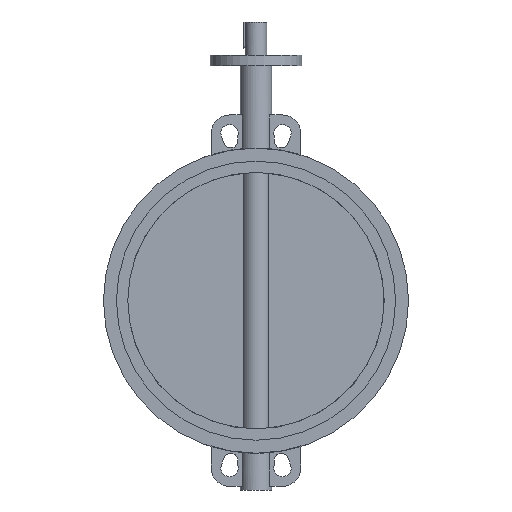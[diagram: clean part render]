
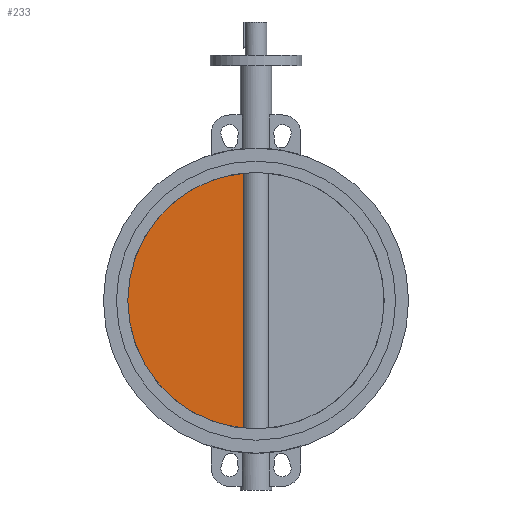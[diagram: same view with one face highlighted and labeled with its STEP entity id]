
A CAD part, left-side view. The second image highlights one B-rep face of the part: STEP entity #233.
In plain terms, the highlighted planar face has unit normal (-1, 0, 0).
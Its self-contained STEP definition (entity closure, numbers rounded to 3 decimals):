
#233=ADVANCED_FACE('',(#6990),#6992,.F.);
#6990=FACE_BOUND('',#6991,.T.);
#6991=EDGE_LOOP('',(#12331,#12332,#12333));
#6992=PLANE('',#6993);
#6993=AXIS2_PLACEMENT_3D('',#6994,#6995,#6996);
#6994=CARTESIAN_POINT('',(-12.,0.,0.));
#6995=DIRECTION('',(1.,0.,0.));
#6996=DIRECTION('',(0.,1.,0.));
#12331=ORIENTED_EDGE('',*,*,#16588,.T.);
#12332=ORIENTED_EDGE('',*,*,#16500,.T.);
#12333=ORIENTED_EDGE('',*,*,#16504,.T.);
#16500=EDGE_CURVE('',#18668,#18669,#18670,.F.);
#16504=EDGE_CURVE('',#18669,#18675,#18677,.F.);
#16588=EDGE_CURVE('',#18675,#18668,#18828,.F.);
#18668=VERTEX_POINT('',#22608);
#18669=VERTEX_POINT('',#22609);
#18670=CIRCLE('',#22610,245.8);
#18675=VERTEX_POINT('',#22648);
#18677=CIRCLE('',#22677,245.8);
#18828=LINE('',#23034,#23035);
#22608=CARTESIAN_POINT('',(-12.,24.187,244.607));
#22609=CARTESIAN_POINT('',(-12.,245.8,0.));
#22610=AXIS2_PLACEMENT_3D('',#22611,#22612,#22613);
#22611=CARTESIAN_POINT('',(-12.,0.,0.));
#22612=DIRECTION('',(1.,0.,0.));
#22613=DIRECTION('',(0.,1.,0.));
#22648=CARTESIAN_POINT('',(-12.,24.187,-244.607));
#22677=AXIS2_PLACEMENT_3D('',#22678,#22679,#22680);
#22678=CARTESIAN_POINT('',(-12.,0.,0.));
#22679=DIRECTION('',(1.,0.,0.));
#22680=DIRECTION('',(0.,0.098,-0.995));
#23034=CARTESIAN_POINT('',(-12.,24.187,244.607));
#23035=VECTOR('',#23036,1.);
#23036=DIRECTION('',(0.,0.,-1.));
